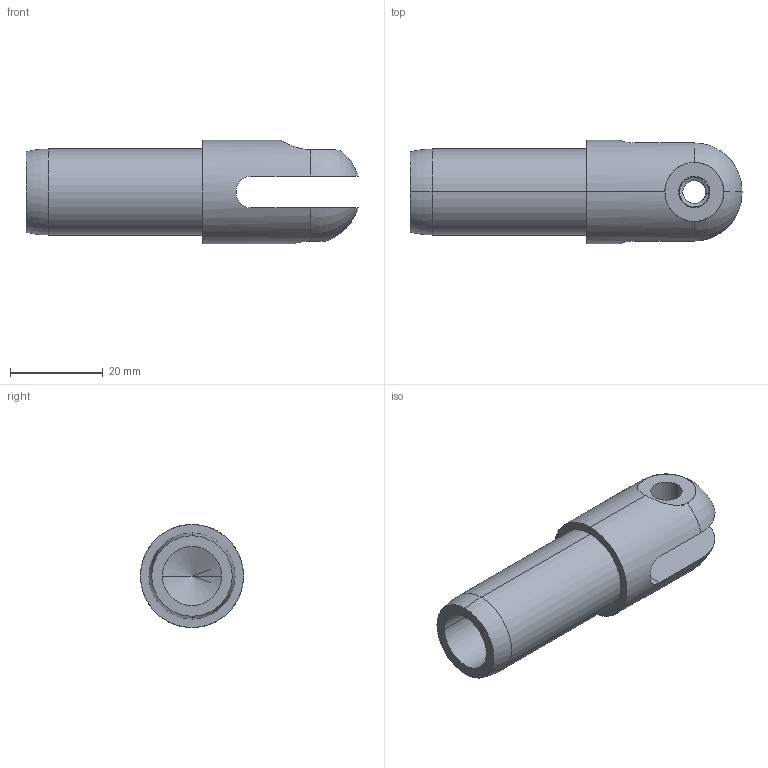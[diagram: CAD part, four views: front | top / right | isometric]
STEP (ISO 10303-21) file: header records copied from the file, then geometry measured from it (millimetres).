
FILE_DESCRIPTION (( 'STEP AP214' ), '1' );
FILE_NAME ('DRP-002-0526-00.STEP', '2013-12-20T17:34:18', ( 'ydmin' ), ( 'Microsoft' ), 'SwSTEP 2.0', 'SolidWorks 2013', '' );
FILE_SCHEMA (( 'AUTOMOTIVE_DESIGN' ));
Length unit declared in the file: inch
Products named in the file (1): DRP-002-0526-00
Bounding box: 71.54 x 22.23 x 22.23 mm (x, y, z)
Volume: 12795.1 mm3; surface area: 7712.7 mm2
Topology: 2 solids, 2 shells, 38 faces, 94 edges, 59 vertices
Faces by surface type: cylinder 14, bspline 8, plane 8, torus 6, cone 2
Entity records: 3434 total; most frequent: CARTESIAN_POINT 2049, ORIENTED_EDGE 184, DIRECTION 160, EDGE_CURVE 92, AXIS2_PLACEMENT_3D 61, VERTEX_POINT 59, EDGE_LOOP 43, DIMENSIONAL_EXPONENTS 42
